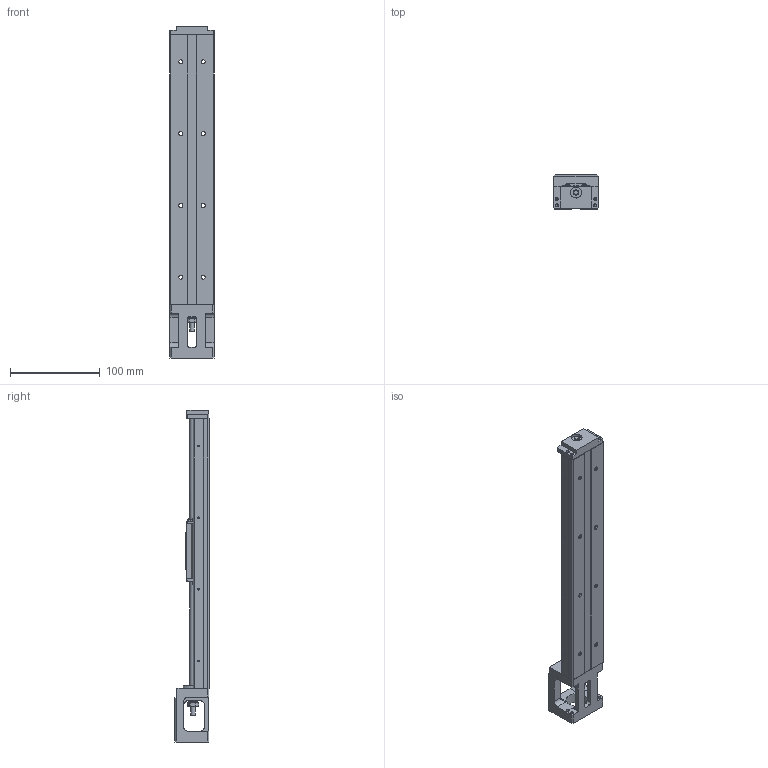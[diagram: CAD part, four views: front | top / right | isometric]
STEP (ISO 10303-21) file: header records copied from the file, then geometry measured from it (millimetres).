
FILE_DESCRIPTION(/* description */ (''),/* implementation_level */ '2;1');
FILE_NAME(/* name */ '26-300low.stp',/* time_stamp */ '2018-02-12T09:12:53+08:00',/* author */ (''),/* organization */ (''),/* preprocessor_version */ 'ST-DEVELOPER v11',/* originating_system */ 'SIEMENS UGS NX 6.0',/* authorisation */ '');
FILE_SCHEMA (('AUTOMOTIVE_DESIGN { 1 0 10303 214 1 1 1 1 }'));
Length unit declared in the file: millimetre
Products named in the file (1): 3.069
Bounding box: 50 x 38.5 x 370 mm (x, y, z)
Volume: 255868 mm3; surface area: 91204.1 mm2
Topology: 5 solids, 10 shells, 670 faces, 1735 edges, 1117 vertices
Faces by surface type: plane 343, cylinder 237, cone 61, bspline 20, extrusion 4, torus 4, sphere 1
Full cylindrical faces by diameter (mm): 1.6 x8, 2.42 x8, 2.5 x5, 2.8 x6, 3.2 x4, 3.3 x2, 3.5 x6, 4 x4, 4.5 x8, 5 x7, 5.7 x1, 6 x10, 8 x33, 9 x2, 10 x1, 12 x2, 16.9 x1
Entity records: 30945 total; most frequent: CARTESIAN_POINT 11329, DIRECTION 3045, ORIENTED_EDGE 2980, EDGE_CURVE 1490, AXIS2_PLACEMENT_3D 1089, VERTEX_POINT 1041, EDGE_LOOP 887, VECTOR 867
